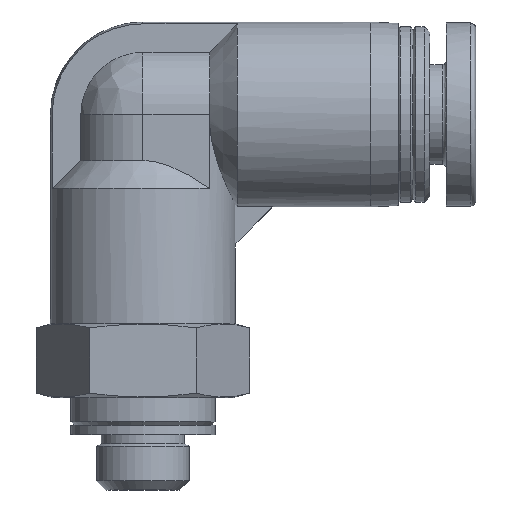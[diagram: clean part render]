
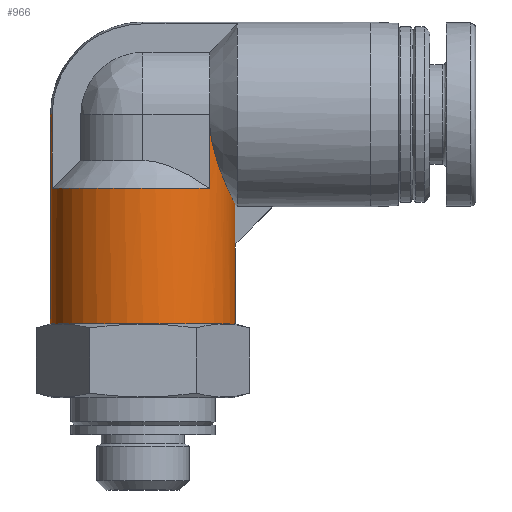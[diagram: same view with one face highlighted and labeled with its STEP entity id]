
A CAD part, front view. The second image highlights one B-rep face of the part: STEP entity #966.
In plain terms, the highlighted cylindrical face has radius 5 mm (diameter 10 mm), a partial arc.
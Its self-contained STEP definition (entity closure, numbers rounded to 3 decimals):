
#16 = CYLINDRICAL_SURFACE ( 'NONE', #2439, 5. ) ;
#30 = CARTESIAN_POINT ( 'NONE',  ( 4.992, -0.334, 13.292 ) ) ;
#96 = VECTOR ( 'NONE', #2641, 1000. ) ;
#122 = CIRCLE ( 'NONE', #433, 5. ) ;
#125 = CARTESIAN_POINT ( 'NONE',  ( -4.899, -1., 9. ) ) ;
#152 = CARTESIAN_POINT ( 'NONE',  ( 4.607, -1.952, 16.231 ) ) ;
#194 = CARTESIAN_POINT ( 'NONE',  ( 3.6, -3.47, 19.842 ) ) ;
#200 = ORIENTED_EDGE ( 'NONE', *, *, #2346, .F. ) ;
#242 = EDGE_CURVE ( 'NONE', #1850, #2192, #1789, .T. ) ;
#248 = ORIENTED_EDGE ( 'NONE', *, *, #1138, .T. ) ;
#281 = CARTESIAN_POINT ( 'NONE',  ( 4.975, -0.5, 13.275 ) ) ;
#285 = ORIENTED_EDGE ( 'NONE', *, *, #2567, .T. ) ;
#330 = EDGE_CURVE ( 'NONE', #2708, #1910, #436, .T. ) ;
#356 = VECTOR ( 'NONE', #1298, 1000. ) ;
#359 = VERTEX_POINT ( 'NONE', #1764 ) ;
#381 = DIRECTION ( 'NONE',  ( 0., 0., 1. ) ) ;
#382 = EDGE_CURVE ( 'NONE', #1910, #2209, #472, .T. ) ;
#409 = EDGE_CURVE ( 'NONE', #2708, #2260, #1988, .T. ) ;
#411 = CARTESIAN_POINT ( 'NONE',  ( 4.744, -1.592, 15.932 ) ) ;
#417 = CARTESIAN_POINT ( 'NONE',  ( 4.951, -0.742, 15.5 ) ) ;
#433 = AXIS2_PLACEMENT_3D ( 'NONE', #640, #1027, #2450 ) ;
#436 = CIRCLE ( 'NONE', #2758, 5. ) ;
#439 = CARTESIAN_POINT ( 'NONE',  ( 4.807, -1.393, 15.798 ) ) ;
#463 = DIRECTION ( 'NONE',  ( 0., 0., -1. ) ) ;
#472 = LINE ( 'NONE', #2387, #2061 ) ;
#489 = CARTESIAN_POINT ( 'NONE',  ( -5., 0., 20.3 ) ) ;
#562 = VERTEX_POINT ( 'NONE', #2955 ) ;
#563 = CARTESIAN_POINT ( 'NONE',  ( 4.156, -2.783, 17.342 ) ) ;
#598 = CARTESIAN_POINT ( 'NONE',  ( 4.305, -2.546, 16.946 ) ) ;
#610 = CARTESIAN_POINT ( 'NONE',  ( 4.382, -2.414, 16.756 ) ) ;
#612 = CARTESIAN_POINT ( 'NONE',  ( -5., 0., 9. ) ) ;
#640 = CARTESIAN_POINT ( 'NONE',  ( 0., 0., 20.3 ) ) ;
#688 = EDGE_CURVE ( 'NONE', #359, #1850, #2146, .T. ) ;
#689 = CARTESIAN_POINT ( 'NONE',  ( -4.899, -1., 20.3 ) ) ;
#719 = CARTESIAN_POINT ( 'NONE',  ( 5., -0.167, 13.3 ) ) ;
#738 = CARTESIAN_POINT ( 'NONE',  ( 5., 0., 13.3 ) ) ;
#747 = FACE_OUTER_BOUND ( 'NONE', #1990, .T. ) ;
#788 = CARTESIAN_POINT ( 'NONE',  ( 4.975, -0.5, 13.275 ) ) ;
#809 = VECTOR ( 'NONE', #463, 1000. ) ;
#848 = CARTESIAN_POINT ( 'NONE',  ( 3.712, -3.354, 18.882 ) ) ;
#966 = ADVANCED_FACE ( '60', ( #747 ), #16, .T. ) ;
#1027 = DIRECTION ( 'NONE',  ( 0., 0., 1. ) ) ;
#1030 = VECTOR ( 'NONE', #1475, 1000. ) ;
#1056 = DIRECTION ( 'NONE',  ( 1., 0., 0. ) ) ;
#1061 = AXIS2_PLACEMENT_3D ( 'NONE', #1198, #3001, #2971 ) ;
#1063 = LINE ( 'NONE', #1776, #809 ) ;
#1105 = CARTESIAN_POINT ( 'NONE',  ( 0., 0., 9. ) ) ;
#1138 = EDGE_CURVE ( 'NONE', #2571, #562, #1695, .T. ) ;
#1198 = CARTESIAN_POINT ( 'NONE',  ( 0., 0., 16.3 ) ) ;
#1248 = ORIENTED_EDGE ( 'NONE', *, *, #382, .T. ) ;
#1298 = DIRECTION ( 'NONE',  ( 0., 0., 1. ) ) ;
#1324 = CARTESIAN_POINT ( 'NONE',  ( 3.945, -3.073, 17.978 ) ) ;
#1440 = CARTESIAN_POINT ( 'NONE',  ( 5., 0., 13.3 ) ) ;
#1451 = LINE ( 'NONE', #1756, #1030 ) ;
#1475 = DIRECTION ( 'NONE',  ( 0., 0., 1. ) ) ;
#1592 = ORIENTED_EDGE ( 'NONE', *, *, #242, .T. ) ;
#1695 = B_SPLINE_CURVE_WITH_KNOTS ( 'NONE', 3,
 ( #2044, #417, #2714, #439, #411, #152, #2939, #610, #598, #563, #2751, #1324, #3013, #848, #1854, #194 ),
 .UNSPECIFIED., .F., .F.,
 ( 4, 2, 2, 2, 2, 2, 2, 4 ),
 ( 0., 0.001, 0.001, 0.002, 0.003, 0.004, 0.004, 0.006 ),
 .UNSPECIFIED. ) ;
#1723 = ORIENTED_EDGE ( 'NONE', *, *, #409, .F. ) ;
#1747 = ORIENTED_EDGE ( 'NONE', *, *, #688, .T. ) ;
#1756 = CARTESIAN_POINT ( 'NONE',  ( 4.975, -0.5, 9. ) ) ;
#1764 = CARTESIAN_POINT ( 'NONE',  ( 3.6, -3.47, 16.3 ) ) ;
#1776 = CARTESIAN_POINT ( 'NONE',  ( 3.6, -3.47, 9. ) ) ;
#1789 = LINE ( 'NONE', #125, #356 ) ;
#1850 = VERTEX_POINT ( 'NONE', #2871 ) ;
#1854 = CARTESIAN_POINT ( 'NONE',  ( 3.632, -3.437, 19.352 ) ) ;
#1907 =( BOUNDED_CURVE ( )  B_SPLINE_CURVE ( 3, ( #281, #30, #719, #738 ),
 .UNSPECIFIED., .F., .F. ) 
 B_SPLINE_CURVE_WITH_KNOTS ( ( 4, 4 ),
 ( 6.183, 6.283 ),
 .UNSPECIFIED. ) 
 CURVE ( )  GEOMETRIC_REPRESENTATION_ITEM ( )  RATIONAL_B_SPLINE_CURVE ( ( 1., 0.999, 0.999, 1. ) ) 
 REPRESENTATION_ITEM ( '' )  );
#1910 = VERTEX_POINT ( 'NONE', #2898 ) ;
#1947 = CARTESIAN_POINT ( 'NONE',  ( 0., 0., 9. ) ) ;
#1988 = LINE ( 'NONE', #2625, #96 ) ;
#1990 = EDGE_LOOP ( 'NONE', ( #1723, #2023, #1248, #200, #3003, #248, #285, #1747, #1592, #2582 ) ) ;
#2001 = DIRECTION ( 'NONE',  ( 1., 0., 0. ) ) ;
#2023 = ORIENTED_EDGE ( 'NONE', *, *, #330, .T. ) ;
#2044 = CARTESIAN_POINT ( 'NONE',  ( 4.975, -0.5, 15.451 ) ) ;
#2061 = VECTOR ( 'NONE', #2666, 1000. ) ;
#2146 = CIRCLE ( 'NONE', #1061, 5. ) ;
#2192 = VERTEX_POINT ( 'NONE', #689 ) ;
#2209 = VERTEX_POINT ( 'NONE', #1440 ) ;
#2260 = VERTEX_POINT ( 'NONE', #489 ) ;
#2346 = EDGE_CURVE ( 'NONE', #2747, #2209, #1907, .T. ) ;
#2387 = CARTESIAN_POINT ( 'NONE',  ( 5., 0., 9. ) ) ;
#2439 = AXIS2_PLACEMENT_3D ( 'NONE', #1105, #381, #1056 ) ;
#2450 = DIRECTION ( 'NONE',  ( -1., 0., 0. ) ) ;
#2497 = EDGE_CURVE ( 'NONE', #2260, #2192, #122, .T. ) ;
#2567 = EDGE_CURVE ( 'NONE', #562, #359, #1063, .T. ) ;
#2571 = VERTEX_POINT ( 'NONE', #2934 ) ;
#2582 = ORIENTED_EDGE ( 'NONE', *, *, #2497, .F. ) ;
#2625 = CARTESIAN_POINT ( 'NONE',  ( -5., 0., 9. ) ) ;
#2641 = DIRECTION ( 'NONE',  ( 0., 0., 1. ) ) ;
#2666 = DIRECTION ( 'NONE',  ( 0., 0., 1. ) ) ;
#2708 = VERTEX_POINT ( 'NONE', #612 ) ;
#2714 = CARTESIAN_POINT ( 'NONE',  ( 4.91, -0.967, 15.582 ) ) ;
#2716 = DIRECTION ( 'NONE',  ( 0., 0., 1. ) ) ;
#2747 = VERTEX_POINT ( 'NONE', #788 ) ;
#2751 = CARTESIAN_POINT ( 'NONE',  ( 4.083, -2.888, 17.548 ) ) ;
#2758 = AXIS2_PLACEMENT_3D ( 'NONE', #1947, #2716, #2001 ) ;
#2871 = CARTESIAN_POINT ( 'NONE',  ( -4.899, -1., 16.3 ) ) ;
#2898 = CARTESIAN_POINT ( 'NONE',  ( 5., 0., 9. ) ) ;
#2934 = CARTESIAN_POINT ( 'NONE',  ( 4.975, -0.5, 15.451 ) ) ;
#2939 = CARTESIAN_POINT ( 'NONE',  ( 4.534, -2.115, 16.397 ) ) ;
#2955 = CARTESIAN_POINT ( 'NONE',  ( 3.6, -3.47, 19.842 ) ) ;
#2967 = EDGE_CURVE ( 'NONE', #2747, #2571, #1451, .T. ) ;
#2971 = DIRECTION ( 'NONE',  ( 1., 0., 0. ) ) ;
#3001 = DIRECTION ( 'NONE',  ( 0., 0., -1. ) ) ;
#3003 = ORIENTED_EDGE ( 'NONE', *, *, #2967, .T. ) ;
#3013 = CARTESIAN_POINT ( 'NONE',  ( 3.881, -3.154, 18.202 ) ) ;
